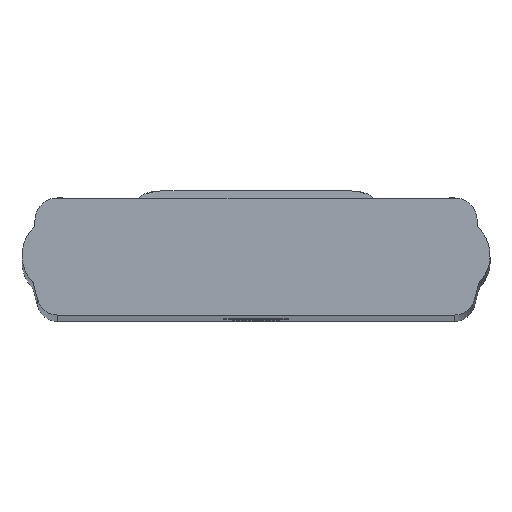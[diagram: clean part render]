
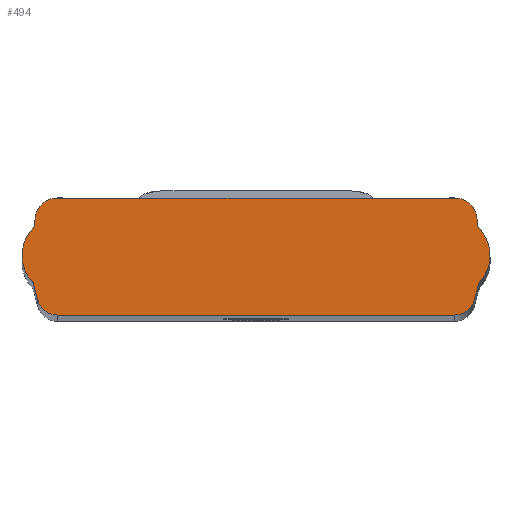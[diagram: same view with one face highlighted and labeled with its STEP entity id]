
A CAD part, top view. The second image highlights one B-rep face of the part: STEP entity #494.
In plain terms, the highlighted planar face has unit normal (0, 0, 1).
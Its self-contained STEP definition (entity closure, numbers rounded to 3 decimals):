
#61 = ORIENTED_EDGE ( 'NONE', *, *, #6980, .T. ) ;
#494 = ADVANCED_FACE ( 'NONE', ( #2802 ), #5183, .T. ) ;
#1890 = AXIS2_PLACEMENT_3D ( 'NONE', #4706, #5004, #5097 ) ;
#2173 = ORIENTED_EDGE ( 'NONE', *, *, #6920, .T. ) ;
#2174 = ORIENTED_EDGE ( 'NONE', *, *, #6750, .T. ) ;
#2194 = ORIENTED_EDGE ( 'NONE', *, *, #6870, .T. ) ;
#2202 = ORIENTED_EDGE ( 'NONE', *, *, #6728, .T. ) ;
#2204 = ORIENTED_EDGE ( 'NONE', *, *, #6820, .T. ) ;
#2370 = VERTEX_POINT ( 'NONE', #5018 ) ;
#2379 = VERTEX_POINT ( 'NONE', #4991 ) ;
#2383 = VERTEX_POINT ( 'NONE', #4834 ) ;
#2385 = VERTEX_POINT ( 'NONE', #4846 ) ;
#2403 = VERTEX_POINT ( 'NONE', #4902 ) ;
#2412 = VERTEX_POINT ( 'NONE', #5075 ) ;
#2413 = VERTEX_POINT ( 'NONE', #5080 ) ;
#2418 = VERTEX_POINT ( 'NONE', #5089 ) ;
#2420 = VERTEX_POINT ( 'NONE', #5150 ) ;
#2423 = VERTEX_POINT ( 'NONE', #4963 ) ;
#2428 = VERTEX_POINT ( 'NONE', #5110 ) ;
#2457 = VERTEX_POINT ( 'NONE', #5124 ) ;
#2459 = VERTEX_POINT ( 'NONE', #5299 ) ;
#2496 = VERTEX_POINT ( 'NONE', #4587 ) ;
#2542 = VERTEX_POINT ( 'NONE', #4697 ) ;
#2553 = VERTEX_POINT ( 'NONE', #4558 ) ;
#2574 = VERTEX_POINT ( 'NONE', #5066 ) ;
#2802 = FACE_OUTER_BOUND ( 'NONE', #4249, .T. ) ;
#3348 = CARTESIAN_POINT ( 'NONE',  ( -21.98, 8.82, 348. ) ) ;
#3368 = CARTESIAN_POINT ( 'NONE',  ( 21.98, 8.82, 348. ) ) ;
#3373 = CARTESIAN_POINT ( 'NONE',  ( 19.336, 0., 348. ) ) ;
#3412 = DIRECTION ( 'NONE',  ( 0., 0., -1. ) ) ;
#3425 = CARTESIAN_POINT ( 'NONE',  ( 19.336, 2., 348. ) ) ;
#3426 = DIRECTION ( 'NONE',  ( 0.259, 0.966, 0. ) ) ;
#3433 = DIRECTION ( 'NONE',  ( 1., 0., 0. ) ) ;
#3447 = CARTESIAN_POINT ( 'NONE',  ( 21.268, 1.482, 348. ) ) ;
#3455 = DIRECTION ( 'NONE',  ( 0., 1., 0. ) ) ;
#3463 = CARTESIAN_POINT ( 'NONE',  ( 21.53, 8.82, 348. ) ) ;
#3482 = DIRECTION ( 'NONE',  ( 1., 0., 0. ) ) ;
#3490 = DIRECTION ( 'NONE',  ( 0., 0., 1. ) ) ;
#3510 = DIRECTION ( 'NONE',  ( -1., 0., 0. ) ) ;
#3517 = DIRECTION ( 'NONE',  ( 1., 0., 0. ) ) ;
#3519 = DIRECTION ( 'NONE',  ( 0., 0., -1. ) ) ;
#3529 = CARTESIAN_POINT ( 'NONE',  ( -19.5, 11.395, 348. ) ) ;
#3546 = DIRECTION ( 'NONE',  ( 1., 0., 0. ) ) ;
#3584 = DIRECTION ( 'NONE',  ( 0., 0., -1. ) ) ;
#3620 = CARTESIAN_POINT ( 'NONE',  ( 19.01, 5.808, 348. ) ) ;
#3624 = DIRECTION ( 'NONE',  ( 0., 0., 1. ) ) ;
#3627 = DIRECTION ( 'NONE',  ( 1., 0., 0. ) ) ;
#3643 = CARTESIAN_POINT ( 'NONE',  ( -22.127, 2.948, 348. ) ) ;
#3676 = DIRECTION ( 'NONE',  ( 1., 0., 0. ) ) ;
#3750 = ORIENTED_EDGE ( 'NONE', *, *, #6823, .T. ) ;
#3752 = ORIENTED_EDGE ( 'NONE', *, *, #6990, .T. ) ;
#3753 = ORIENTED_EDGE ( 'NONE', *, *, #6765, .T. ) ;
#3892 = AXIS2_PLACEMENT_3D ( 'NONE', #3348, #3412, #3482 ) ;
#3896 = AXIS2_PLACEMENT_3D ( 'NONE', #3425, #3490, #3433 ) ;
#3899 = AXIS2_PLACEMENT_3D ( 'NONE', #3368, #3519, #3517 ) ;
#3918 = AXIS2_PLACEMENT_3D ( 'NONE', #6473, #6481, #6653 ) ;
#3920 = AXIS2_PLACEMENT_3D ( 'NONE', #6678, #6492, #6495 ) ;
#3945 = AXIS2_PLACEMENT_3D ( 'NONE', #6538, #6597, #6609 ) ;
#3962 = AXIS2_PLACEMENT_3D ( 'NONE', #6405, #6291, #6351 ) ;
#3967 = AXIS2_PLACEMENT_3D ( 'NONE', #6440, #6457, #6439 ) ;
#3976 = AXIS2_PLACEMENT_3D ( 'NONE', #6411, #6281, #6430 ) ;
#3985 = AXIS2_PLACEMENT_3D ( 'NONE', #3620, #3624, #3627 ) ;
#3990 = AXIS2_PLACEMENT_3D ( 'NONE', #3643, #3584, #3676 ) ;
#4045 = ORIENTED_EDGE ( 'NONE', *, *, #6807, .T. ) ;
#4047 = ORIENTED_EDGE ( 'NONE', *, *, #6882, .T. ) ;
#4048 = ORIENTED_EDGE ( 'NONE', *, *, #6755, .T. ) ;
#4066 = ORIENTED_EDGE ( 'NONE', *, *, #6909, .T. ) ;
#4079 = ORIENTED_EDGE ( 'NONE', *, *, #6773, .T. ) ;
#4081 = ORIENTED_EDGE ( 'NONE', *, *, #6762, .T. ) ;
#4102 = ORIENTED_EDGE ( 'NONE', *, *, #6781, .T. ) ;
#4249 = EDGE_LOOP ( 'NONE', ( #4066, #2202, #2204, #4047, #2174, #2173, #2194, #3752, #3750, #4045, #4102, #4081, #4048, #6700, #61, #4079, #3753 ) ) ;
#4558 = CARTESIAN_POINT ( 'NONE',  ( -19.5, 11.395, 348. ) ) ;
#4587 = CARTESIAN_POINT ( 'NONE',  ( 19.336, 0., 348. ) ) ;
#4697 = CARTESIAN_POINT ( 'NONE',  ( 19.5, 11.395, 348. ) ) ;
#4706 = CARTESIAN_POINT ( 'NONE',  ( -19.35, 9.22, 348. ) ) ;
#4834 = CARTESIAN_POINT ( 'NONE',  ( -22.79, 5.808, 348. ) ) ;
#4846 = CARTESIAN_POINT ( 'NONE',  ( -21.53, 8.82, 348. ) ) ;
#4902 = CARTESIAN_POINT ( 'NONE',  ( 21.53, 9.22, 348. ) ) ;
#4963 = CARTESIAN_POINT ( 'NONE',  ( 21.268, 1.482, 348. ) ) ;
#4991 = CARTESIAN_POINT ( 'NONE',  ( -21.664, 8.499, 348. ) ) ;
#5004 = DIRECTION ( 'NONE',  ( 0., 0., 1. ) ) ;
#5018 = CARTESIAN_POINT ( 'NONE',  ( 21.664, 8.499, 348. ) ) ;
#5066 = CARTESIAN_POINT ( 'NONE',  ( -21.53, 9.22, 348. ) ) ;
#5075 = CARTESIAN_POINT ( 'NONE',  ( -21.692, 3.064, 348. ) ) ;
#5080 = CARTESIAN_POINT ( 'NONE',  ( 21.53, 8.82, 348. ) ) ;
#5089 = CARTESIAN_POINT ( 'NONE',  ( 21.795, 3.252, 348. ) ) ;
#5097 = DIRECTION ( 'NONE',  ( 1., 0., 0. ) ) ;
#5110 = CARTESIAN_POINT ( 'NONE',  ( -21.268, 1.482, 348. ) ) ;
#5124 = CARTESIAN_POINT ( 'NONE',  ( 21.692, 3.064, 348. ) ) ;
#5150 = CARTESIAN_POINT ( 'NONE',  ( -19.336, 0., 348. ) ) ;
#5183 = PLANE ( 'NONE',  #1890 ) ;
#5299 = CARTESIAN_POINT ( 'NONE',  ( -21.795, 3.252, 348. ) ) ;
#5462 = LINE ( 'NONE', #3529, #5467 ) ;
#5467 = VECTOR ( 'NONE', #3510, 1000. ) ;
#5494 = CIRCLE ( 'NONE', #3892, 0.45 ) ;
#5500 = LINE ( 'NONE', #3447, #5505 ) ;
#5505 = VECTOR ( 'NONE', #3426, 1000. ) ;
#5511 = CIRCLE ( 'NONE', #3896, 2. ) ;
#5519 = LINE ( 'NONE', #3463, #5522 ) ;
#5522 = VECTOR ( 'NONE', #3455, 1000. ) ;
#5531 = CIRCLE ( 'NONE', #3899, 0.45 ) ;
#5545 = LINE ( 'NONE', #3373, #5547 ) ;
#5547 = VECTOR ( 'NONE', #3546, 1000. ) ;
#5577 = CIRCLE ( 'NONE', #3918, 2. ) ;
#5596 = CIRCLE ( 'NONE', #3920, 2.18 ) ;
#5598 = LINE ( 'NONE', #6693, #5605 ) ;
#5605 = VECTOR ( 'NONE', #6566, 1000. ) ;
#5669 = CIRCLE ( 'NONE', #3945, 3.78 ) ;
#5687 = LINE ( 'NONE', #6628, #5690 ) ;
#5690 = VECTOR ( 'NONE', #6692, 1000. ) ;
#5726 = CIRCLE ( 'NONE', #3962, 2.18 ) ;
#5742 = CIRCLE ( 'NONE', #3967, 3.78 ) ;
#5809 = CIRCLE ( 'NONE', #3976, 0.45 ) ;
#5839 = CIRCLE ( 'NONE', #3985, 3.78 ) ;
#5854 = CIRCLE ( 'NONE', #3990, 0.45 ) ;
#6281 = DIRECTION ( 'NONE',  ( 0., 0., -1. ) ) ;
#6291 = DIRECTION ( 'NONE',  ( 0., 0., 1. ) ) ;
#6351 = DIRECTION ( 'NONE',  ( 1., 0., 0. ) ) ;
#6405 = CARTESIAN_POINT ( 'NONE',  ( 19.35, 9.22, 348. ) ) ;
#6411 = CARTESIAN_POINT ( 'NONE',  ( 22.127, 2.948, 348. ) ) ;
#6430 = DIRECTION ( 'NONE',  ( 1., 0., 0. ) ) ;
#6439 = DIRECTION ( 'NONE',  ( 1., 0., 0. ) ) ;
#6440 = CARTESIAN_POINT ( 'NONE',  ( -19.01, 5.808, 348. ) ) ;
#6457 = DIRECTION ( 'NONE',  ( 0., 0., 1. ) ) ;
#6473 = CARTESIAN_POINT ( 'NONE',  ( -19.336, 2., 348. ) ) ;
#6481 = DIRECTION ( 'NONE',  ( 0., 0., 1. ) ) ;
#6492 = DIRECTION ( 'NONE',  ( 0., 0., 1. ) ) ;
#6495 = DIRECTION ( 'NONE',  ( 1., 0., 0. ) ) ;
#6538 = CARTESIAN_POINT ( 'NONE',  ( -19.01, 5.808, 348. ) ) ;
#6566 = DIRECTION ( 'NONE',  ( 0.259, -0.966, 0. ) ) ;
#6597 = DIRECTION ( 'NONE',  ( 0., 0., 1. ) ) ;
#6609 = DIRECTION ( 'NONE',  ( 1., 0., 0. ) ) ;
#6628 = CARTESIAN_POINT ( 'NONE',  ( -21.53, 8.82, 348. ) ) ;
#6653 = DIRECTION ( 'NONE',  ( 1., 0., 0. ) ) ;
#6678 = CARTESIAN_POINT ( 'NONE',  ( -19.35, 9.22, 348. ) ) ;
#6692 = DIRECTION ( 'NONE',  ( 0., -1., 0. ) ) ;
#6693 = CARTESIAN_POINT ( 'NONE',  ( -21.268, 1.482, 348. ) ) ;
#6700 = ORIENTED_EDGE ( 'NONE', *, *, #6958, .T. ) ;
#6728 = EDGE_CURVE ( 'NONE', #2542, #2553, #5462, .T. ) ;
#6750 = EDGE_CURVE ( 'NONE', #2385, #2379, #5494, .T. ) ;
#6755 = EDGE_CURVE ( 'NONE', #2423, #2457, #5500, .T. ) ;
#6762 = EDGE_CURVE ( 'NONE', #2496, #2423, #5511, .T. ) ;
#6765 = EDGE_CURVE ( 'NONE', #2413, #2403, #5519, .T. ) ;
#6773 = EDGE_CURVE ( 'NONE', #2370, #2413, #5531, .T. ) ;
#6781 = EDGE_CURVE ( 'NONE', #2420, #2496, #5545, .T. ) ;
#6807 = EDGE_CURVE ( 'NONE', #2428, #2420, #5577, .T. ) ;
#6820 = EDGE_CURVE ( 'NONE', #2553, #2574, #5596, .T. ) ;
#6823 = EDGE_CURVE ( 'NONE', #2412, #2428, #5598, .T. ) ;
#6870 = EDGE_CURVE ( 'NONE', #2383, #2459, #5669, .T. ) ;
#6882 = EDGE_CURVE ( 'NONE', #2574, #2385, #5687, .T. ) ;
#6909 = EDGE_CURVE ( 'NONE', #2403, #2542, #5726, .T. ) ;
#6920 = EDGE_CURVE ( 'NONE', #2379, #2383, #5742, .T. ) ;
#6958 = EDGE_CURVE ( 'NONE', #2457, #2418, #5809, .T. ) ;
#6980 = EDGE_CURVE ( 'NONE', #2418, #2370, #5839, .T. ) ;
#6990 = EDGE_CURVE ( 'NONE', #2459, #2412, #5854, .T. ) ;
